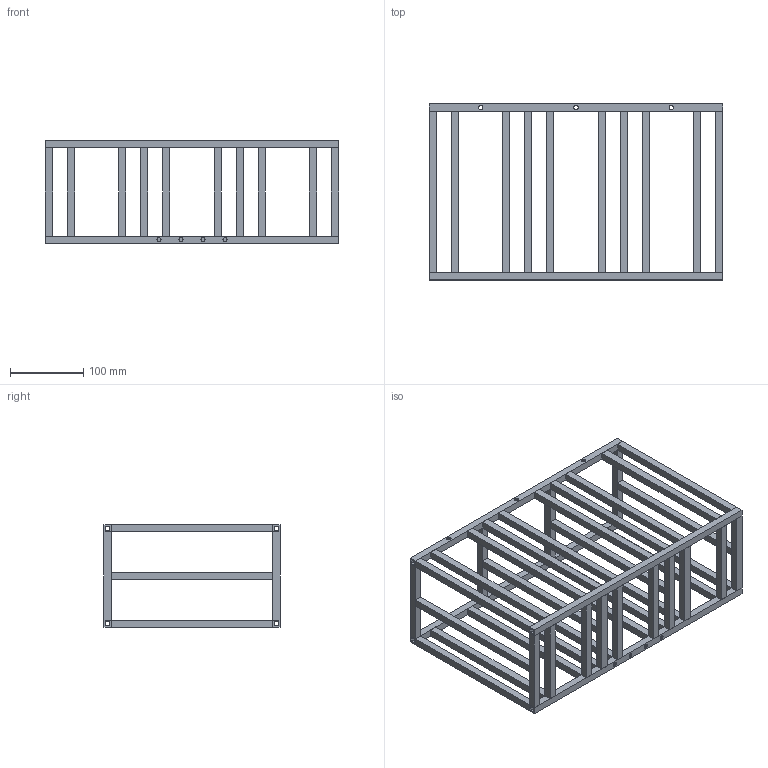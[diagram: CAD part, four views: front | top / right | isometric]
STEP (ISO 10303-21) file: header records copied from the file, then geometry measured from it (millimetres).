
FILE_DESCRIPTION(('CATIA V5 STEP Exchange'),'2;1');
FILE_NAME('D:\姚明阳\1、工装图纸\AG105\AG105.11_V2.stp','2024-04-30T05:13:45+00:00',('none'),('none'),'CATIA Version 5 Release 21 GA (IN-10)','CATIA V5 STEP AP214','none');
FILE_SCHEMA(('AUTOMOTIVE_DESIGN { 1 0 10303 214 1 1 1 1 }'));
Length unit declared in the file: millimetre
Products named in the file (1): Part5.1.1
Bounding box: 400 x 240 x 140 mm (x, y, z)
Volume: 546781.3 mm3; surface area: 552886.1 mm2
Topology: 42 solids, 42 shells, 472 faces, 1176 edges, 776 vertices
Faces by surface type: plane 432, cylinder 40
Entity records: 12458 total; most frequent: ORIENTED_EDGE 2352, CARTESIAN_POINT 2080, DIRECTION 1430, EDGE_CURVE 1176, VECTOR 1072, LINE 1072, VERTEX_POINT 776, EDGE_LOOP 584
